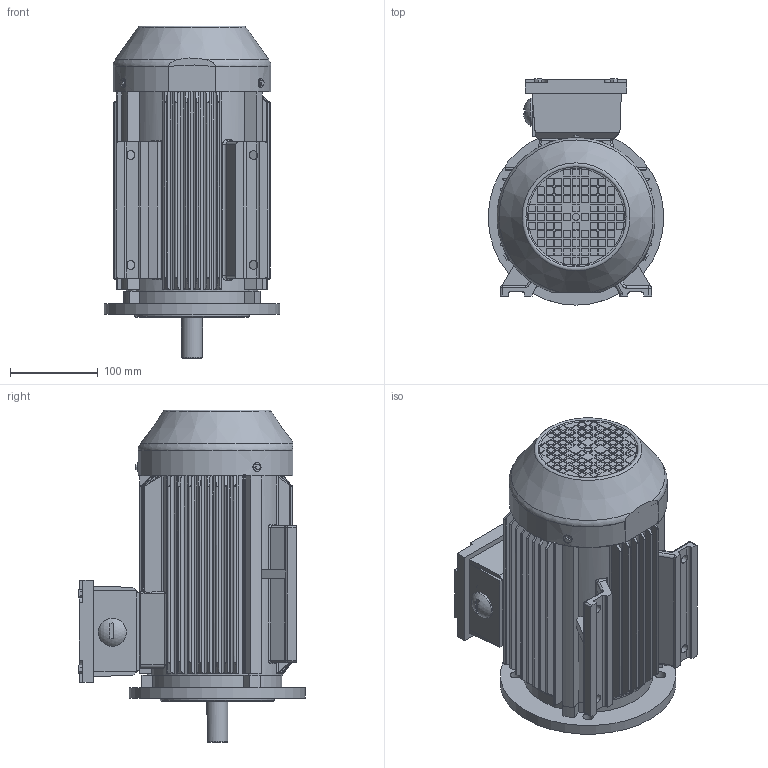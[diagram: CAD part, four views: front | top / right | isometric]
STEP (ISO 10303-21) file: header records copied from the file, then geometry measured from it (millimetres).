
FILE_DESCRIPTION(/* description */ (''),/* implementation_level */ '2;1');
FILE_NAME(/* name */ 'C:/Users/luigi_zhang/Desktop/temp/New folder/TE3-90Lú¿GXú⌐B35╔╧.step',/* time_stamp */ '2020-06-22T09:02:55+10:00',/* author */ (''),/* organization */ (''),/* preprocessor_version */ 'ST-DEVELOPER v18.1',/* originating_system */ 'Autodesk Translation Framework v9.3.0.1241',/* authorisation */ '');
FILE_SCHEMA (('AUTOMOTIVE_DESIGN { 1 0 10303 214 3 1 1 }'));
Length unit declared in the file: millimetre
Products named in the file (1): (Unsaved)
Bounding box: 200 x 257.5 x 378 mm (x, y, z)
Volume: 3699526.7 mm3; surface area: 748059 mm2
Topology: 6 solids, 7 shells, 1411 faces, 3694 edges, 2424 vertices
Faces by surface type: plane 758, cylinder 543, bspline 63, torus 24, cone 16, sphere 7
Full cylindrical faces by diameter (mm): 5 x2, 6.8 x1, 8 x1, 10 x10, 12 x4, 15 x2, 22.2 x1, 22.44 x1, 23.488 x1, 24 x1, 24.2 x1, 25 x2, 27.05 x1, 30 x2, 30.44 x2, 32 x1, 40 x2, 45 x1, 74 x1, 97.29 x1, 130 x1, 138 x1, 200 x1
Entity records: 49620 total; most frequent: CARTESIAN_POINT 14616, ORIENTED_EDGE 7372, DIRECTION 7132, EDGE_CURVE 3686, VERTEX_POINT 2424, AXIS2_PLACEMENT_3D 2417, LINE 2298, VECTOR 2298
